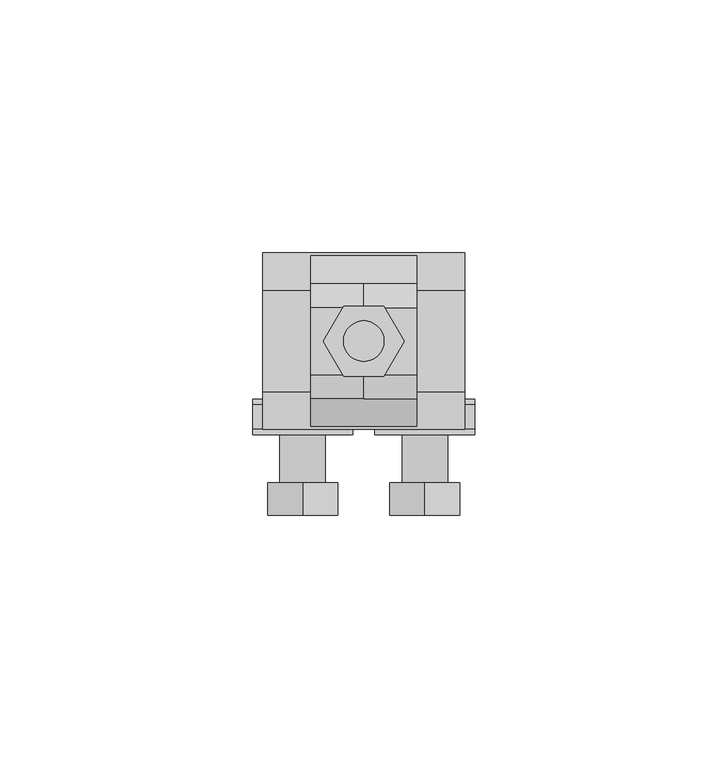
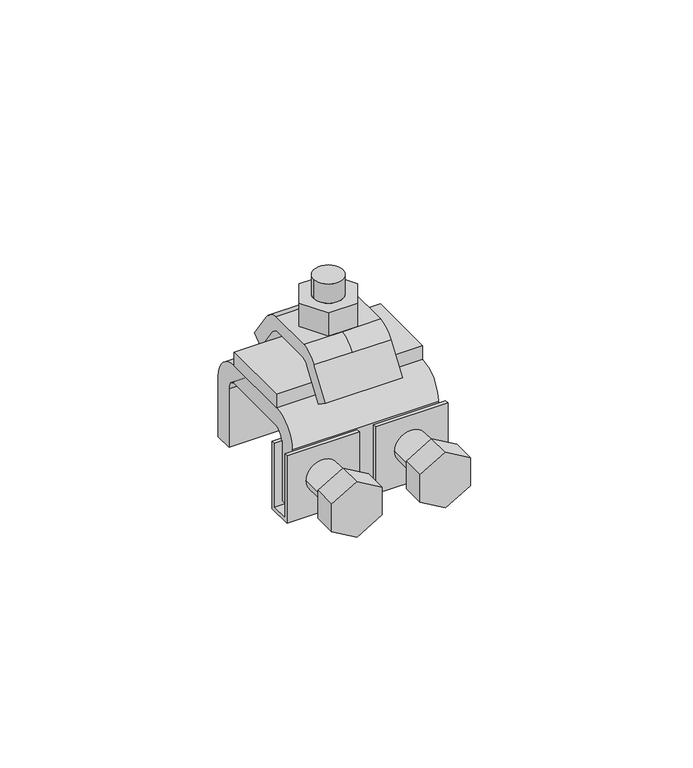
"""IFC4 building model written with IfcOpenShell, lengths in millimetres: proxy geometry, КНС_ЗажимФальцевый_DKC : ND2002CU_Медь."""

from ifc_helpers import new_model, si_unit, point, frame, frame_2d, origin, place, context, project, spatial, polyline, circle_curve, trimmed, segment, composite_curve, outline, extrude, source, transform, mapped, element, save
from ifc_brep_helpers import plane_surface, cylinder_surface, revolved_surface, advanced_brep


def security_devices_cc878f36(model_context):
    return source(origin(), model_context, "Body", "SolidModel", [
        extrude(outline(polyline([(20.0, 10.0), (20.0, -10.0), (-20.0, -10.0), (-20.0, 10.0), (20.0, 10.0)])), frame((0.0, 0.0, 7.5), z_axis=(0.0, 0.0, 1.0), x_axis=(1.0, 0.0, 0.0)), (0.0, 0.0, 1.0), 4.0),
        advanced_brep(
        [(10.5, -13.5731314, 7.3929075), (10.5, -8.1410965, 15.1506573), (10.5, -6.2051161, 16.5), (10.5, 6.2051161, 16.5), (10.5, 8.1410965, 15.1506573), (10.5, 13.5731314, 7.3929075), (10.5, 16.8497396, 9.6872132), (10.5, 11.4177046, 17.4449631), (10.5, 6.6229437, 20.5), (10.5, -6.6229437, 20.5), (10.5, -11.4177046, 17.4449631), (10.5, -16.8497396, 9.6872132), (-10.5, -13.5731314, 7.3929075), (-10.5, -8.1410965, 15.1506573), (0.0, -8.1410965, 15.1506573), (0.0, -6.2051161, 16.5), (-10.5, -6.2051161, 16.5), (-10.5, 6.2051161, 16.5), (0.0, 6.2051161, 16.5), (0.0, 8.1410965, 15.1506573), (-10.5, 8.1410965, 15.1506573), (-10.5, 13.5731314, 7.3929075), (-10.5, 16.8497396, 9.6872132), (-10.5, 11.4177046, 17.4449631), (0.0, 11.4177046, 17.4449631), (0.0, 6.6229437, 20.5), (-10.5, 6.6229437, 20.5), (-10.5, -6.6229437, 20.5), (0.0, -6.6229437, 20.5), (0.0, -11.4177046, 17.4449631), (-10.5, -11.4177046, 17.4449631), (-10.5, -16.8497396, 9.6872132)],
        [
            (0, 1),
            (1, 2, circle_curve(frame((10.5, -5.3318916, 13.183631), z_axis=(-1.0, 0.0, 0.0), x_axis=(0.0, -1.0, 0.0)), 3.4294059)),
            (2, 3),
            (3, 4, circle_curve(frame((10.5, 5.3318916, 13.183631), z_axis=(-1.0, 0.0, 0.0), x_axis=(0.0, -1.0, 0.0)), 3.4294059)),
            (4, 5),
            (5, 6),
            (6, 7),
            (7, 8, circle_curve(frame((10.5, 5.3318916, 13.183631), z_axis=(1.0, 0.0, 0.0), x_axis=(0.0, -1.0, 0.0)), 7.4294059)),
            (8, 9),
            (9, 10, circle_curve(frame((10.5, -5.3318916, 13.183631), z_axis=(1.0, 0.0, 0.0), x_axis=(0.0, -1.0, 0.0)), 7.4294059)),
            (10, 11),
            (11, 0),
            (0, 12),
            (12, 13),
            (13, 14),
            (14, 1),
            (14, 15, circle_curve(frame((0.0, -5.3318916, 13.183631), z_axis=(-1.0, 0.0, 0.0), x_axis=(0.0, -1.0, 0.0)), 3.4294059)),
            (15, 2),
            (15, 16),
            (16, 17),
            (17, 18),
            (18, 3),
            (18, 19, circle_curve(frame((0.0, 5.3318916, 13.183631), z_axis=(-1.0, 0.0, 0.0), x_axis=(0.0, -1.0, 0.0)), 3.4294059)),
            (19, 4),
            (19, 20),
            (20, 21),
            (21, 5),
            (21, 22),
            (22, 6),
            (22, 23),
            (23, 24),
            (24, 7),
            (24, 25, circle_curve(frame((0.0, 5.3318916, 13.183631), z_axis=(1.0, 0.0, 0.0), x_axis=(0.0, -1.0, 0.0)), 7.4294059)),
            (25, 8),
            (25, 26),
            (26, 27),
            (27, 28),
            (28, 9),
            (28, 29, circle_curve(frame((0.0, -5.3318916, 13.183631), z_axis=(1.0, 0.0, 0.0), x_axis=(0.0, -1.0, 0.0)), 7.4294059)),
            (29, 10),
            (29, 30),
            (30, 31),
            (31, 11),
            (31, 12),
            (30, 27, circle_curve(frame((-10.5, -5.3318916, 13.183631), z_axis=(-1.0, 0.0, 0.0), x_axis=(0.0, -1.0, 0.0)), 7.4294059)),
            (26, 23, circle_curve(frame((-10.5, 5.3318916, 13.183631), z_axis=(-1.0, 0.0, 0.0), x_axis=(0.0, -1.0, 0.0)), 7.4294059)),
            (20, 17, circle_curve(frame((-10.5, 5.3318916, 13.183631), z_axis=(1.0, 0.0, 0.0), x_axis=(0.0, -1.0, 0.0)), 3.4294059)),
            (16, 13, circle_curve(frame((-10.5, -5.3318916, 13.183631), z_axis=(1.0, 0.0, 0.0), x_axis=(0.0, -1.0, 0.0)), 3.4294059)),
        ],
        [
            plane_surface(frame((10.5, 0.0, 14.0), z_axis=(1.0, 0.0, 0.0), x_axis=(0.0, 0.0, 1.0))),
            plane_surface(frame((10.5, -13.5731314, 7.3929075), z_axis=(0.0, 0.8191520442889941, -0.5735764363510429), x_axis=(-1.0, 0.0, 0.0))),
            revolved_surface(polyline([(0.0, -8.7612975, 13.183631), (10.5, -8.7612975, 13.183631)]), (10.5, -5.3318916, 13.183631), (-1.0, 0.0, 0.0)),
            plane_surface(frame((10.5, -6.2051161, 16.5), z_axis=(0.0, 0.0, -1.0), x_axis=(-1.0, 0.0, 0.0))),
            revolved_surface(polyline([(0.0, 1.9024856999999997, 13.183631), (10.5, 1.9024856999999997, 13.183631)]), (10.5, 5.3318916, 13.183631), (-1.0, 0.0, 0.0)),
            plane_surface(frame((10.5, 8.1410965, 15.1506573), z_axis=(0.0, -0.8191520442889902, -0.5735764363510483), x_axis=(-1.0, 0.0, 0.0))),
            plane_surface(frame((10.5, 13.5731314, 7.3929075), z_axis=(0.0, 0.573576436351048, -0.8191520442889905), x_axis=(-1.0, 0.0, 0.0))),
            plane_surface(frame((10.5, 16.8497396, 9.6872132), z_axis=(0.0, 0.8191520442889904, 0.5735764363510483), x_axis=(-1.0, 0.0, 0.0))),
            cylinder_surface(frame((10.5, 5.3318916, 13.183631), z_axis=(1.0, 0.0, 0.0), x_axis=(0.0, -1.0, 0.0)), 7.4294059),
            plane_surface(frame((10.5, 6.6229437, 20.5), z_axis=(0.0, 0.0, 1.0), x_axis=(-1.0, 0.0, 0.0))),
            cylinder_surface(frame((10.5, -5.3318916, 13.183631), z_axis=(1.0, 0.0, 0.0), x_axis=(0.0, -1.0, 0.0)), 7.4294059),
            plane_surface(frame((10.5, -11.4177046, 17.4449631), z_axis=(0.0, -0.8191520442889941, 0.5735764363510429), x_axis=(-1.0, 0.0, 0.0))),
            plane_surface(frame((10.5, -16.8497396, 9.6872132), z_axis=(0.0, -0.5735764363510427, -0.8191520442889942), x_axis=(-1.0, 0.0, 0.0))),
            plane_surface(frame((-10.5, 0.0, 14.0), z_axis=(-1.0, 0.0, 0.0), x_axis=(0.0, 0.0, 1.0))),
            revolved_surface(polyline([(-10.5, -8.7612975, 13.183631), (0.0, -8.7612975, 13.183631)]), (0.0, -5.3318916, 13.183631), (-1.0, 0.0, 0.0)),
            revolved_surface(polyline([(-10.5, 1.9024856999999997, 13.183631), (0.0, 1.9024856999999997, 13.183631)]), (0.0, 5.3318916, 13.183631), (-1.0, 0.0, 0.0)),
            cylinder_surface(frame((0.0, 5.3318916, 13.183631), z_axis=(1.0, 0.0, 0.0), x_axis=(0.0, -1.0, 0.0)), 7.4294059),
            cylinder_surface(frame((0.0, -5.3318916, 13.183631), z_axis=(1.0, 0.0, 0.0), x_axis=(0.0, -1.0, 0.0)), 7.4294059),
        ],
        [
            (0, [[1, 2, 3, 4, 5, 6, 7, 8, 9, 10, 11, 12]]),
            (1, [[-1, 13, 14, 15, 16]]),
            (2, [[-2, -16, 17, 18]]),
            (3, [[-3, -18, 19, 20, 21, 22]]),
            (4, [[-4, -22, 23, 24]]),
            (5, [[-5, -24, 25, 26, 27]]),
            (6, [[-6, -27, 28, 29]]),
            (7, [[-7, -29, 30, 31, 32]]),
            (8, [[-8, -32, 33, 34]]),
            (9, [[-9, -34, 35, 36, 37, 38]]),
            (10, [[-10, -38, 39, 40]]),
            (11, [[-11, -40, 41, 42, 43]]),
            (12, [[-13, -12, -43, 44]]),
            (13, [[-44, -42, 45, -36, 46, -30, -28, -26, 47, -20, 48, -14]]),
            (14, [[-17, -15, -48, -19]]),
            (15, [[-23, -21, -47, -25]]),
            (16, [[-33, -31, -46, -35]]),
            (17, [[-39, -37, -45, -41]]),
        ],
    ),
        extrude(outline(composite_curve([segment(trimmed(circle_curve(frame_2d((-9.7706486, -12.0982045)), 4.5), [point((-9.7706486, -7.5982045))], [point((-9.7706486, -16.5982045))], False, "CARTESIAN"), True, "CONTINUOUS"), segment(trimmed(circle_curve(frame_2d((-9.7706486, -12.0982045)), 4.5), [point((-9.7706486, -16.5982045))], [point((-9.7706486, -7.5982045))], False, "CARTESIAN"), True, "CONTINUOUS")], self_intersect=False)), frame((0.0, -28.0, 0.0), z_axis=(0.0, 1.0, 0.0), x_axis=(0.0, 0.0, 1.0)), (0.0, 0.0, 1.0), 16.5),
        extrude(outline(polyline([(-5.7706486, -5.1700013), (-1.7706486, -12.0982045), (-5.7706486, -19.0264077), (-13.7706486, -19.0264077), (-17.7706486, -12.0982045), (-13.7706486, -5.1700013), (-5.7706486, -5.1700013)])), frame((0.0, -34.5, 0.0), z_axis=(0.0, 1.0, 0.0), x_axis=(0.0, 0.0, 1.0)), (0.0, 0.0, 1.0), 6.5),
        extrude(outline(composite_curve([segment(trimmed(circle_curve(frame_2d((-9.7706486, 12.0982045)), 4.5), [point((-9.7706486, 7.5982045))], [point((-9.7706486, 16.5982045))], False, "CARTESIAN"), True, "CONTINUOUS"), segment(trimmed(circle_curve(frame_2d((-9.7706486, 12.0982045)), 4.5), [point((-9.7706486, 16.5982045))], [point((-9.7706486, 7.5982045))], False, "CARTESIAN"), True, "CONTINUOUS")], self_intersect=False)), frame((0.0, -28.0, 0.0), z_axis=(0.0, 1.0, 0.0), x_axis=(0.0, 0.0, 1.0)), (0.0, 0.0, 1.0), 16.5),
        extrude(outline(polyline([(-5.7706486, 5.1700013), (-13.7706486, 5.1700013), (-17.7706486, 12.0982045), (-13.7706486, 19.0264077), (-5.7706486, 19.0264077), (-1.7706486, 12.0982045), (-5.7706486, 5.1700013)])), frame((0.0, -34.5, 0.0), z_axis=(0.0, 1.0, 0.0), x_axis=(0.0, 0.0, 1.0)), (0.0, 0.0, 1.0), 6.5),
        extrude(outline(polyline([(-11.5, -0.5412972), (-11.5, -20.0), (-18.5, -20.0), (-18.5, -0.5412972), (-17.5, -0.5412972), (-17.5, -19.0), (-12.5, -19.0), (-12.5, -0.5412972), (-11.5, -0.5412972)])), frame((-22.0, 0.0, 0.0), z_axis=(1.0, 0.0, 0.0), x_axis=(0.0, 1.0, 0.0)), (0.0, 0.0, 1.0), 19.803591),
        extrude(outline(polyline([(-11.5, -0.5412972), (-11.5, -20.0), (-18.5, -20.0), (-18.5, -0.5412972), (-17.5, -0.5412972), (-17.5, -19.0), (-12.5, -19.0), (-12.5, -0.5412972), (-11.5, -0.5412972)])), frame((2.196409, 0.0, 0.0), z_axis=(1.0, 0.0, 0.0), x_axis=(0.0, 1.0, 0.0)), (0.0, 0.0, 1.0), 19.803591),
        extrude(outline(composite_curve([segment(polyline([(17.5, -17.5), (12.5, -17.5), (12.5, -0.5412972)]), True, "CONTINUOUS"), segment(trimmed(circle_curve(frame_2d((9.4587028, -0.5412972)), 3.0412972), [point((12.5, -0.5412972))], [point((9.4587028, 2.5))], True, "CARTESIAN"), True, "CONTINUOUS"), segment(polyline([(9.4587028, 2.5), (0.0, 2.5), (-9.4587028, 2.5)]), True, "CONTINUOUS"), segment(trimmed(circle_curve(frame_2d((-9.4587028, -0.5412972)), 3.0412972), [point((-9.4587028, 2.5))], [point((-12.5, -0.5412972))], True, "CARTESIAN"), True, "CONTINUOUS"), segment(polyline([(-12.5, -0.5412972), (-12.5, -17.5), (-17.5, -17.5), (-17.5, 0.0)]), True, "CONTINUOUS"), segment(trimmed(circle_curve(frame_2d((-10.0, 0.0)), 7.5), [point((-17.5, 0.0))], [point((-10.0, 7.5))], False, "CARTESIAN"), True, "CONTINUOUS"), segment(polyline([(-10.0, 7.5), (0.0, 7.5), (10.0, 7.5)]), True, "CONTINUOUS"), segment(trimmed(circle_curve(frame_2d((10.0, 0.0)), 7.5), [point((10.0, 7.5))], [point((17.5, 0.0))], False, "CARTESIAN"), True, "CONTINUOUS"), segment(polyline([(17.5, 0.0), (17.5, -17.5)]), True, "CONTINUOUS")], self_intersect=False)), frame((-20.0, 0.0, 0.0), z_axis=(1.0, 0.0, 0.0), x_axis=(0.0, 1.0, 0.0)), (0.0, 0.0, 1.0), 40.0),
        advanced_brep(
        [(4.0, 0.0, 33.0), (-4.0, 0.0, 33.0), (4.0, 0.0, 7.5), (-4.0, 0.0, 7.5), (4.0, 0.0, 27.5), (-4.0, 0.0, 27.5), (-4.0, 0.0, 20.5453567), (4.0, 0.0, 20.5453567), (4.0, 6.9282032, 27.5), (-4.0, 6.9282032, 27.5), (-8.0, 0.0, 27.5), (-4.0, -6.9282032, 27.5), (4.0, -6.9282032, 27.5), (8.0, 0.0, 27.5), (4.0, 6.9282032, 20.5453567), (8.0, 0.0, 20.5453567), (4.0, -6.9282032, 20.5453567), (-4.0, -6.9282032, 20.5453567), (-8.0, 0.0, 20.5453567), (-4.0, 6.9282032, 20.5453567)],
        [
            (0, 1, circle_curve(frame((0.0, 0.0, 33.0), z_axis=(0.0, 0.0, 1.0), x_axis=(-1.0, 0.0, 0.0)), 4.0)),
            (1, 0, circle_curve(frame((0.0, 0.0, 33.0), z_axis=(0.0, 0.0, 1.0), x_axis=(-1.0, 0.0, 0.0)), 4.0)),
            (2, 3, circle_curve(frame((0.0, 0.0, 7.5), z_axis=(0.0, 0.0, -1.0), x_axis=(-1.0, 0.0, 0.0)), 4.0)),
            (3, 2, circle_curve(frame((0.0, 0.0, 7.5), z_axis=(0.0, 0.0, -1.0), x_axis=(-1.0, 0.0, 0.0)), 4.0)),
            (0, 4),
            (4, 5, circle_curve(frame((0.0, 0.0, 27.5), z_axis=(0.0, 0.0, 1.0), x_axis=(-1.0, 0.0, 0.0)), 4.0)),
            (5, 1),
            (3, 6),
            (6, 7, circle_curve(frame((0.0, 0.0, 20.5453567), z_axis=(0.0, 0.0, -1.0), x_axis=(-1.0, 0.0, 0.0)), 4.0)),
            (7, 2),
            (5, 4, circle_curve(frame((0.0, 0.0, 27.5), z_axis=(0.0, 0.0, 1.0), x_axis=(-1.0, 0.0, 0.0)), 4.0)),
            (7, 6, circle_curve(frame((0.0, 0.0, 20.5453567), z_axis=(0.0, 0.0, -1.0), x_axis=(-1.0, 0.0, 0.0)), 4.0)),
            (8, 9),
            (9, 10),
            (10, 11),
            (11, 12),
            (12, 13),
            (13, 8),
            (14, 15),
            (15, 16),
            (16, 17),
            (17, 18),
            (18, 19),
            (19, 14),
            (8, 14),
            (19, 9),
            (18, 10),
            (17, 11),
            (16, 12),
            (15, 13),
        ],
        [
            plane_surface(frame((-4.0, 0.0, 33.0), z_axis=(0.0, 0.0, 1.0), x_axis=(0.0, -1.0, 0.0))),
            plane_surface(frame((-4.0, 0.0, 7.5), z_axis=(0.0, 0.0, -1.0), x_axis=(0.0, 1.0, 0.0))),
            cylinder_surface(frame((0.0, 0.0, 7.5), z_axis=(0.0, 0.0, 1.0), x_axis=(-1.0, 0.0, 0.0)), 4.0),
            plane_surface(frame((4.0, 6.9282032, 27.5), z_axis=(0.0, 0.0, 1.0), x_axis=(-1.0, 0.0, 0.0))),
            plane_surface(frame((4.0, 6.9282032, 20.5453567), z_axis=(0.0, 0.0, -1.0), x_axis=(1.0, 0.0, 0.0))),
            plane_surface(frame((4.0, 6.9282032, 27.5), z_axis=(0.0, 1.0, 0.0), x_axis=(0.0, 0.0, -1.0))),
            plane_surface(frame((-4.0, 6.9282032, 27.5), z_axis=(-0.8660254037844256, 0.5000000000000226, 0.0), x_axis=(0.0, 0.0, -1.0))),
            plane_surface(frame((-8.0, 0.0, 27.5), z_axis=(-0.8660254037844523, -0.4999999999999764, 0.0), x_axis=(0.0, 0.0, -1.0))),
            plane_surface(frame((-4.0, -6.9282032, 27.5), z_axis=(0.0, -1.0, 0.0), x_axis=(0.0, 0.0, -1.0))),
            plane_surface(frame((4.0, -6.9282032, 27.5), z_axis=(0.866025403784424, -0.5000000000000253, 0.0), x_axis=(0.0, 0.0, -1.0))),
            plane_surface(frame((8.0, 0.0, 27.5), z_axis=(0.8660254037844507, 0.4999999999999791, 0.0), x_axis=(0.0, 0.0, -1.0))),
        ],
        [
            (0, [[1, 2]]),
            (1, [[3, 4]]),
            (2, [[-1, 5, 6, 7]]),
            (2, [[-4, 8, 9, 10]]),
            (2, [[-2, -7, 11, -5]]),
            (2, [[-3, -10, 12, -8]]),
            (3, [[13, 14, 15, 16, 17, 18], [-6, -11]]),
            (4, [[19, 20, 21, 22, 23, 24], [-9, -12]]),
            (5, [[-13, 25, -24, 26]]),
            (6, [[-14, -26, -23, 27]]),
            (7, [[-15, -27, -22, 28]]),
            (8, [[-16, -28, -21, 29]]),
            (9, [[-17, -29, -20, 30]]),
            (10, [[-18, -30, -19, -25]]),
        ],
    ),
    ])


if __name__ == "__main__":
    model = new_model("IFC4")
    model_context = context("Model", 3, world=origin())
    ifc_project = project(units=[si_unit("LENGTHUNIT", "METRE", prefix="MILLI")], contexts=[model_context])
    site = spatial("IfcSite", under=ifc_project)
    building = spatial("IfcBuilding", under=site)
    placement = place(None, origin())
    security_devices_shape = security_devices_cc878f36(model_context)
    element("IfcBuildingElementProxy", 1, Name="КНС_ЗажимФальцевый_DKC : ND2002CU_Медь", ObjectType="КНС_ЗажимФальцевый_DKC : ND2002CU_Медь", at=placement, inside=building, context=model_context, shape_type="MappedRepresentation", body=[
        mapped(security_devices_shape, transform((0.0, 0.0, 0.0), x_axis=(1.0, 0.0, 0.0), y_axis=(0.0, 1.0, 0.0), z_axis=(0.0, 0.0, 1.0))),
    ])
    save(model, "model.ifc")
